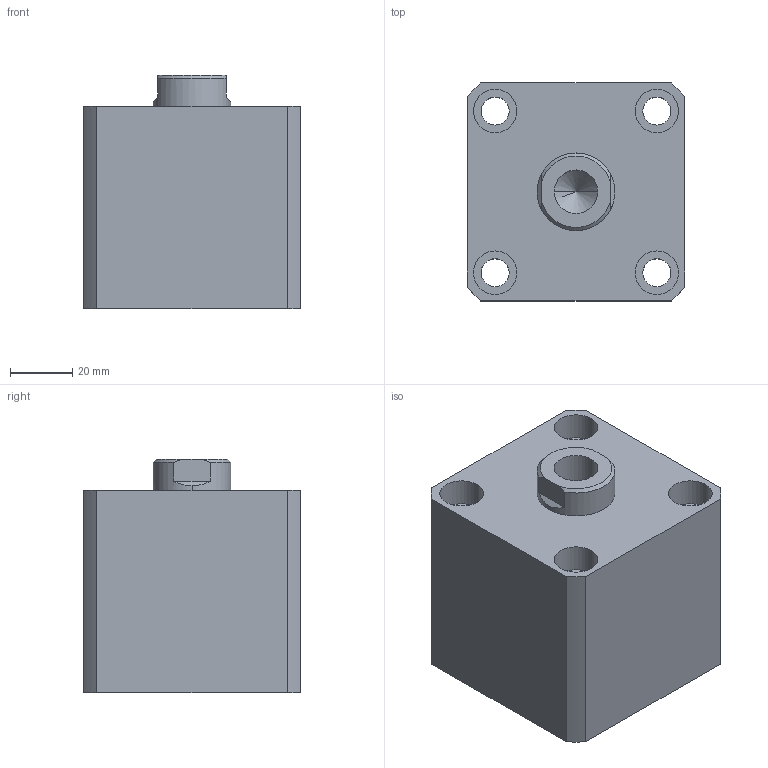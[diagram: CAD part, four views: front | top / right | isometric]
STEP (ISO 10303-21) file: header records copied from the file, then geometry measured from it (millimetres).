
FILE_DESCRIPTION (( 'STEP AP203' ), '1' );
FILE_NAME ('HTB-SDMB40-10N.STEP', '2019-10-09T01:43:15', ( '微软用户' ), ( '微软中国' ), 'SwSTEP 2.0', 'SolidWorks 2012', '' );
FILE_SCHEMA (( 'CONFIG_CONTROL_DESIGN' ));
Length unit declared in the file: millimetre
Products named in the file (3): HTB-SDMB40-10N; HTB-SDMB40-10N活塞杆; HTB-SDMB40-10掛极
Assembly tree (2 placements, depth 2):
  HTB-SDMB40-10N
    HTB-SDMB40-10掛极
    HTB-SDMB40-10N活塞杆
Bounding box: 70 x 70 x 75 mm (x, y, z)
Volume: 285682 mm3; surface area: 52271.3 mm2
Topology: 2 solids, 2 shells, 137 faces, 331 edges, 217 vertices
Faces by surface type: plane 65, cylinder 46, bspline 16, torus 6, cone 4
Entity records: 5074 total; most frequent: CARTESIAN_POINT 1580, ORIENTED_EDGE 658, DIRECTION 647, EDGE_CURVE 329, AXIS2_PLACEMENT_3D 232, VERTEX_POINT 217, VECTOR 183, LINE 183
